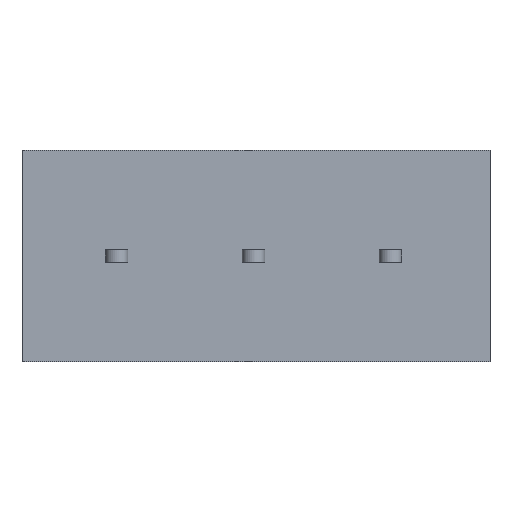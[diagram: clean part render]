
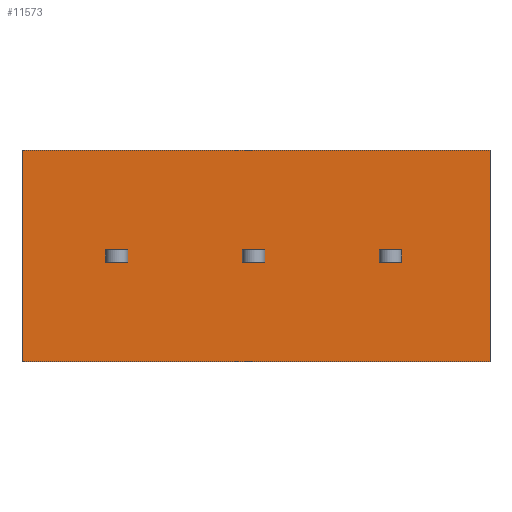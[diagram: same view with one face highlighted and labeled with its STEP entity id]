
A CAD part, front view. The second image highlights one B-rep face of the part: STEP entity #11573.
In plain terms, the highlighted planar face has unit normal (0, -1, 0).
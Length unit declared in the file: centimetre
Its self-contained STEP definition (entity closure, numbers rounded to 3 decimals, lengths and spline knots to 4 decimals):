
#603=VECTOR('',#12213,1.);
#606=VECTOR('',#12219,1.);
#620=VECTOR('',#12250,1.);
#623=VECTOR('',#12258,1.);
#1032=VECTOR('',#12809,1.);
#1139=VECTOR('',#13110,1.);
#1143=VECTOR('',#13115,1.);
#1154=VECTOR('',#13148,1.);
#1156=VECTOR('',#13151,1.);
#1274=VECTOR('',#13465,1.);
#1278=VECTOR('',#13470,1.);
#1289=VECTOR('',#13503,1.);
#1291=VECTOR('',#13506,1.);
#1792=VECTOR('',#14264,1.);
#1800=VECTOR('',#14281,1.);
#1801=VECTOR('',#14282,1.);
#1868=LINE('',#14564,#603);
#1871=LINE('',#14573,#606);
#1885=LINE('',#14610,#620);
#1888=LINE('',#14618,#623);
#2297=LINE('',#16132,#1032);
#2404=LINE('',#16520,#1139);
#2408=LINE('',#16529,#1143);
#2419=LINE('',#16564,#1154);
#2421=LINE('',#16568,#1156);
#2539=LINE('',#16969,#1274);
#2543=LINE('',#16978,#1278);
#2554=LINE('',#17013,#1289);
#2556=LINE('',#17017,#1291);
#3057=LINE('',#18770,#1792);
#3065=LINE('',#18795,#1800);
#3066=LINE('',#18796,#1801);
#3155=VERTEX_POINT('',#14565);
#3156=VERTEX_POINT('',#14566);
#3159=VERTEX_POINT('',#14574);
#3171=VERTEX_POINT('',#14611);
#3514=VERTEX_POINT('',#16133);
#3515=VERTEX_POINT('',#16134);
#3640=VERTEX_POINT('',#16521);
#3641=VERTEX_POINT('',#16522);
#3644=VERTEX_POINT('',#16530);
#3655=VERTEX_POINT('',#16565);
#3778=VERTEX_POINT('',#16970);
#3779=VERTEX_POINT('',#16971);
#3782=VERTEX_POINT('',#16979);
#3793=VERTEX_POINT('',#17014);
#4211=VERTEX_POINT('',#18771);
#4212=VERTEX_POINT('',#18772);
#4510=EDGE_CURVE('',#3155,#3156,#1868,.T.);
#4514=EDGE_CURVE('',#3156,#3159,#1871,.T.);
#4532=EDGE_CURVE('',#3159,#3171,#1885,.T.);
#4536=EDGE_CURVE('',#3171,#3155,#1888,.T.);
#5051=EDGE_CURVE('',#3514,#3515,#2297,.T.);
#5227=EDGE_CURVE('',#3640,#3641,#2404,.T.);
#5231=EDGE_CURVE('',#3644,#3640,#2408,.T.);
#5248=EDGE_CURVE('',#3655,#3644,#2419,.T.);
#5250=EDGE_CURVE('',#3641,#3655,#2421,.T.);
#5433=EDGE_CURVE('',#3778,#3779,#2539,.T.);
#5437=EDGE_CURVE('',#3782,#3778,#2543,.T.);
#5454=EDGE_CURVE('',#3793,#3782,#2554,.T.);
#5456=EDGE_CURVE('',#3779,#3793,#2556,.T.);
#6096=EDGE_CURVE('',#4211,#4212,#3057,.T.);
#6108=EDGE_CURVE('',#4212,#3514,#3065,.T.);
#6109=EDGE_CURVE('',#3515,#4211,#3066,.T.);
#9458=ORIENTED_EDGE('',*,*,#4532,.F.);
#9459=ORIENTED_EDGE('',*,*,#4514,.F.);
#9460=ORIENTED_EDGE('',*,*,#4510,.F.);
#9461=ORIENTED_EDGE('',*,*,#4536,.F.);
#9462=ORIENTED_EDGE('',*,*,#5231,.T.);
#9463=ORIENTED_EDGE('',*,*,#5227,.T.);
#9464=ORIENTED_EDGE('',*,*,#5250,.T.);
#9465=ORIENTED_EDGE('',*,*,#5248,.T.);
#9466=ORIENTED_EDGE('',*,*,#5437,.T.);
#9467=ORIENTED_EDGE('',*,*,#5433,.T.);
#9468=ORIENTED_EDGE('',*,*,#5456,.T.);
#9469=ORIENTED_EDGE('',*,*,#5454,.T.);
#9470=ORIENTED_EDGE('',*,*,#6096,.T.);
#9471=ORIENTED_EDGE('',*,*,#6108,.T.);
#9472=ORIENTED_EDGE('',*,*,#5051,.T.);
#9473=ORIENTED_EDGE('',*,*,#6109,.T.);
#10237=EDGE_LOOP('',(#9458,#9459,#9460,#9461));
#10238=EDGE_LOOP('',(#9462,#9463,#9464,#9465));
#10239=EDGE_LOOP('',(#9466,#9467,#9468,#9469));
#10240=EDGE_LOOP('',(#9470,#9471,#9472,#9473));
#10937=FACE_BOUND('',#10237,.T.);
#10938=FACE_BOUND('',#10238,.T.);
#10939=FACE_BOUND('',#10239,.T.);
#10940=FACE_BOUND('',#10240,.T.);
#11573=ADVANCED_FACE('',(#10937,#10938,#10939,#10940),#12007,.T.);
#12007=PLANE('',#19537);
#12213=DIRECTION('',(-1.,0.,0.));
#12219=DIRECTION('',(0.,0.,-1.));
#12250=DIRECTION('',(1.,0.,0.));
#12258=DIRECTION('',(0.,0.,1.));
#12809=DIRECTION('',(0.,0.,1.));
#13110=DIRECTION('',(0.,0.,1.));
#13115=DIRECTION('',(-1.,0.,0.));
#13148=DIRECTION('',(0.,0.,-1.));
#13151=DIRECTION('',(1.,0.,0.));
#13465=DIRECTION('',(0.,0.,1.));
#13470=DIRECTION('',(-1.,0.,0.));
#13503=DIRECTION('',(0.,0.,-1.));
#13506=DIRECTION('',(1.,0.,0.));
#14264=DIRECTION('',(0.,0.,-1.));
#14280=DIRECTION('',(0.,-1.,0.));
#14281=DIRECTION('',(1.,0.,0.));
#14282=DIRECTION('',(-1.,0.,0.));
#14564=CARTESIAN_POINT('',(-0.685,0.,0.05));
#14565=CARTESIAN_POINT('',(-0.38,0.,0.05));
#14566=CARTESIAN_POINT('',(-0.56,0.,0.05));
#14573=CARTESIAN_POINT('',(-0.56,0.,-0.175));
#14574=CARTESIAN_POINT('',(-0.56,0.,-0.05));
#14610=CARTESIAN_POINT('',(-0.685,0.,-0.05));
#14611=CARTESIAN_POINT('',(-0.38,0.,-0.05));
#14618=CARTESIAN_POINT('',(-0.38,0.,-0.175));
#16132=CARTESIAN_POINT('',(2.53,0.,0.85));
#16133=CARTESIAN_POINT('',(2.53,0.,-0.85));
#16134=CARTESIAN_POINT('',(2.53,0.,0.85));
#16520=CARTESIAN_POINT('',(1.64,0.,-0.175));
#16521=CARTESIAN_POINT('',(1.64,0.,-0.05));
#16522=CARTESIAN_POINT('',(1.64,0.,0.05));
#16529=CARTESIAN_POINT('',(0.865,0.,-0.05));
#16530=CARTESIAN_POINT('',(1.82,0.,-0.05));
#16564=CARTESIAN_POINT('',(1.82,0.,-0.175));
#16565=CARTESIAN_POINT('',(1.82,0.,0.05));
#16568=CARTESIAN_POINT('',(0.865,0.,0.05));
#16969=CARTESIAN_POINT('',(0.54,0.,-0.175));
#16970=CARTESIAN_POINT('',(0.54,0.,-0.05));
#16971=CARTESIAN_POINT('',(0.54,0.,0.05));
#16978=CARTESIAN_POINT('',(0.315,0.,-0.05));
#16979=CARTESIAN_POINT('',(0.72,0.,-0.05));
#17013=CARTESIAN_POINT('',(0.72,0.,-0.175));
#17014=CARTESIAN_POINT('',(0.72,0.,0.05));
#17017=CARTESIAN_POINT('',(0.315,0.,0.05));
#18770=CARTESIAN_POINT('',(-1.23,0.,-0.85));
#18771=CARTESIAN_POINT('',(-1.23,0.,0.85));
#18772=CARTESIAN_POINT('',(-1.23,0.,-0.85));
#18794=CARTESIAN_POINT('',(-1.1,0.,0.));
#18795=CARTESIAN_POINT('',(-1.1,0.,-0.85));
#18796=CARTESIAN_POINT('',(-1.1,0.,0.85));
#19537=AXIS2_PLACEMENT_3D('',#18794,#14280,$);
